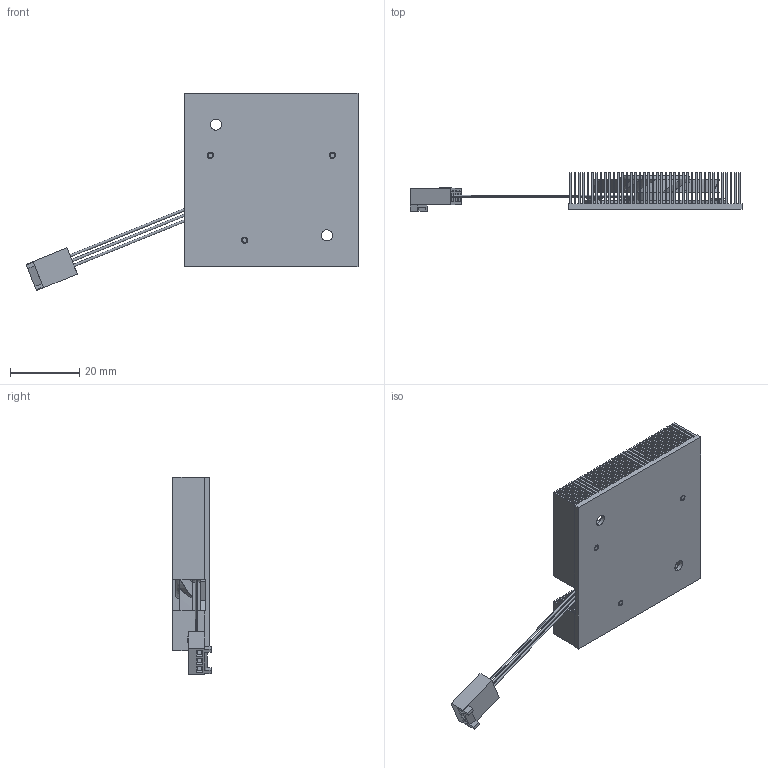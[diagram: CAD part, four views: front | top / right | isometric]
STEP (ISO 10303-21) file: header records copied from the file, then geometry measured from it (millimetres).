
FILE_DESCRIPTION (( 'STEP AP214' ), '1' );
FILE_NAME ('SC05S.STEP', '2023-03-02T23:14:07', ( '' ), ( '' ), 'SwSTEP 2.0', 'SolidWorks 2020', '' );
FILE_SCHEMA (( 'AUTOMOTIVE_DESIGN' ));
Length unit declared in the file: millimetre
Products named in the file (1): SC05S
Bounding box: 95.83 x 11 x 56.92 mm (x, y, z)
Volume: 8998.7 mm3; surface area: 22485.7 mm2
Topology: 40 solids, 40 shells, 1103 faces, 2964 edges, 1947 vertices
Faces by surface type: plane 718, bspline 196, cylinder 127, cone 60, torus 2
Entity records: 58366 total; most frequent: CARTESIAN_POINT 19749, ORIENTED_EDGE 5916, DIRECTION 4499, EDGE_CURVE 2958, VECTOR 1985, LINE 1985, VERTEX_POINT 1947, AXIS2_PLACEMENT_3D 1257
